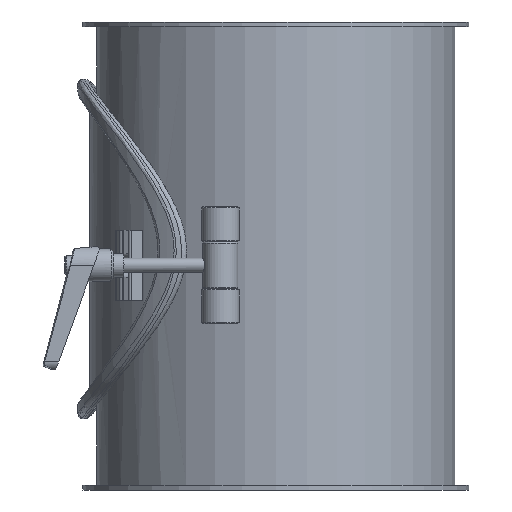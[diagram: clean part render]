
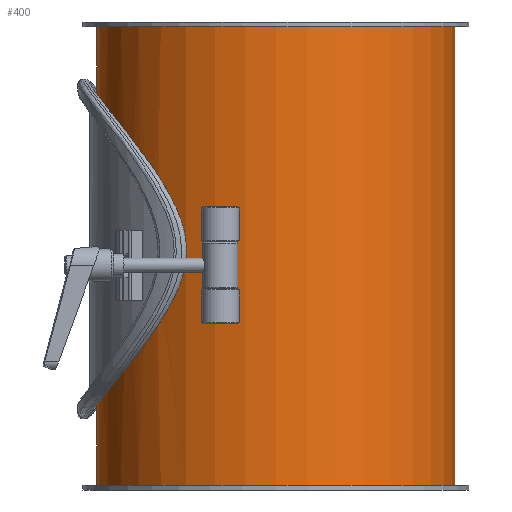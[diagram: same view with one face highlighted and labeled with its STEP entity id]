
A CAD part, front view. The second image highlights one B-rep face of the part: STEP entity #400.
In plain terms, the highlighted cylindrical face has radius 76.5 mm (diameter 153 mm), a full revolution.
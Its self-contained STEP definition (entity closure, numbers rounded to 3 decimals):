
#185=CARTESIAN_POINT('',(-50.458,-57.5,100.0));
#186=VERTEX_POINT('',#185);
#187=CARTESIAN_POINT('',(-50.458,-57.5,100.0));
#188=CARTESIAN_POINT('',(-50.458,-57.5,96.137));
#189=CARTESIAN_POINT('',(-50.915,-57.107,92.261));
#190=CARTESIAN_POINT('',(-52.594,-55.564,84.713));
#191=CARTESIAN_POINT('',(-53.809,-54.416,81.039));
#192=CARTESIAN_POINT('',(-56.643,-51.459,74.065));
#193=CARTESIAN_POINT('',(-58.262,-49.647,70.759));
#194=CARTESIAN_POINT('',(-61.558,-45.496,64.645));
#195=CARTESIAN_POINT('',(-63.234,-43.155,61.838));
#196=CARTESIAN_POINT('',(-66.334,-38.215,56.898));
#197=CARTESIAN_POINT('',(-67.88,-35.439,54.568));
#198=CARTESIAN_POINT('',(-70.736,-29.327,50.403));
#199=CARTESIAN_POINT('',(-72.044,-25.991,48.567));
#200=CARTESIAN_POINT('',(-74.209,-18.943,45.575));
#201=CARTESIAN_POINT('',(-75.068,-15.222,44.417));
#202=CARTESIAN_POINT('',(-76.214,-7.641,42.879));
#203=CARTESIAN_POINT('',(-76.5,-3.781,42.5));
#204=CARTESIAN_POINT('',(-76.5,3.781,42.5));
#205=CARTESIAN_POINT('',(-76.214,7.641,42.879));
#206=CARTESIAN_POINT('',(-75.068,15.222,44.417));
#207=CARTESIAN_POINT('',(-74.209,18.943,45.575));
#208=CARTESIAN_POINT('',(-72.044,25.991,48.567));
#209=CARTESIAN_POINT('',(-70.736,29.327,50.403));
#210=CARTESIAN_POINT('',(-67.88,35.439,54.568));
#211=CARTESIAN_POINT('',(-66.334,38.215,56.898));
#212=CARTESIAN_POINT('',(-63.234,43.155,61.838));
#213=CARTESIAN_POINT('',(-61.558,45.496,64.645));
#214=CARTESIAN_POINT('',(-58.262,49.647,70.759));
#215=CARTESIAN_POINT('',(-56.643,51.459,74.065));
#216=CARTESIAN_POINT('',(-53.809,54.416,81.039));
#217=CARTESIAN_POINT('',(-52.594,55.564,84.713));
#218=CARTESIAN_POINT('',(-50.915,57.107,92.261));
#219=CARTESIAN_POINT('',(-50.458,57.5,96.137));
#220=CARTESIAN_POINT('',(-50.458,57.5,103.863));
#221=CARTESIAN_POINT('',(-50.915,57.107,107.739));
#222=CARTESIAN_POINT('',(-52.594,55.564,115.287));
#223=CARTESIAN_POINT('',(-53.809,54.416,118.961));
#224=CARTESIAN_POINT('',(-56.643,51.459,125.935));
#225=CARTESIAN_POINT('',(-58.262,49.647,129.241));
#226=CARTESIAN_POINT('',(-61.558,45.496,135.355));
#227=CARTESIAN_POINT('',(-63.234,43.155,138.162));
#228=CARTESIAN_POINT('',(-66.334,38.215,143.102));
#229=CARTESIAN_POINT('',(-67.88,35.439,145.432));
#230=CARTESIAN_POINT('',(-70.736,29.327,149.597));
#231=CARTESIAN_POINT('',(-72.044,25.991,151.433));
#232=CARTESIAN_POINT('',(-74.209,18.943,154.425));
#233=CARTESIAN_POINT('',(-75.068,15.222,155.583));
#234=CARTESIAN_POINT('',(-76.214,7.641,157.121));
#235=CARTESIAN_POINT('',(-76.5,3.781,157.5));
#236=CARTESIAN_POINT('',(-76.5,-3.781,157.5));
#237=CARTESIAN_POINT('',(-76.214,-7.641,157.121));
#238=CARTESIAN_POINT('',(-75.068,-15.222,155.583));
#239=CARTESIAN_POINT('',(-74.209,-18.943,154.425));
#240=CARTESIAN_POINT('',(-72.044,-25.991,151.433));
#241=CARTESIAN_POINT('',(-70.736,-29.327,149.597));
#242=CARTESIAN_POINT('',(-67.88,-35.439,145.432));
#243=CARTESIAN_POINT('',(-66.334,-38.215,143.102));
#244=CARTESIAN_POINT('',(-63.234,-43.155,138.162));
#245=CARTESIAN_POINT('',(-61.558,-45.496,135.355));
#246=CARTESIAN_POINT('',(-58.262,-49.647,129.241));
#247=CARTESIAN_POINT('',(-56.643,-51.459,125.935));
#248=CARTESIAN_POINT('',(-53.809,-54.416,118.961));
#249=CARTESIAN_POINT('',(-52.594,-55.564,115.287));
#250=CARTESIAN_POINT('',(-50.915,-57.107,107.739));
#251=CARTESIAN_POINT('',(-50.458,-57.5,103.863));
#252=CARTESIAN_POINT('',(-50.458,-57.5,100.0));
#253=B_SPLINE_CURVE_WITH_KNOTS('',3,(#187,#188,#189,#190,#191,#192,#193,#194,#195,#196,#197,#198,#199,#200,#201,#202,#203,#204,#205,#206,#207,#208,#209,#210,#211,#212,#213,#214,#215,#216,#217,#218,#219,#220,#221,#222,#223,#224,#225,#226,#227,#228,#229,#230,#231,#232,#233,#234,#235,#236,#237,#238,#239,#240,#241,#242,#243,#244,#245,#246,#247,#248,#249,#250,#251,#252),.UNSPECIFIED.,.T.,.U.,(4,2,2,2,2,2,2,2,2,2,2,2,2,2,2,2,2,2,2,2,2,2,2,2,2,2,2,2,2,2,2,2,4),(0.0,1.159,2.318,3.477,4.636,5.77,6.904,8.038,9.173,10.307,11.441,12.575,13.709,14.868,16.027,17.186,18.345,19.504,20.663,21.822,22.981,24.115,25.249,26.383,27.518,28.652,29.786,30.92,32.054,33.213,34.372,35.531,36.69),.UNSPECIFIED.);
#254=EDGE_CURVE('',#186,#186,#253,.T.);
#295=CARTESIAN_POINT('',(76.5,0.,198.0));
#296=VERTEX_POINT('',#295);
#297=CARTESIAN_POINT('',(0.0,0.0,198.0));
#298=DIRECTION('',(0.0,0.0,-1.0));
#299=DIRECTION('',(-1.0,0.0,0.0));
#300=AXIS2_PLACEMENT_3D('',#297,#298,#299);
#301=CIRCLE('',#300,76.5);
#302=EDGE_CURVE('',#296,#296,#301,.T.);
#343=CARTESIAN_POINT('',(-76.5,0.,2.0));
#344=VERTEX_POINT('',#343);
#345=CARTESIAN_POINT('',(0.0,0.0,2.0));
#346=DIRECTION('',(0.0,0.0,1.0));
#347=DIRECTION('',(-1.0,0.0,0.0));
#348=AXIS2_PLACEMENT_3D('',#345,#346,#347);
#349=CIRCLE('',#348,76.5);
#350=EDGE_CURVE('',#344,#344,#349,.T.);
#386=CARTESIAN_POINT('',(0.0,0.0,0.0));
#387=DIRECTION('',(0.0,0.0,1.0));
#388=DIRECTION('',(-1.0,0.0,0.0));
#389=AXIS2_PLACEMENT_3D('',#386,#387,#388);
#390=CYLINDRICAL_SURFACE('',#389,76.5);
#391=ORIENTED_EDGE('',*,*,#302,.T.);
#392=EDGE_LOOP('',(#391));
#393=FACE_OUTER_BOUND('',#392,.T.);
#394=ORIENTED_EDGE('',*,*,#254,.T.);
#395=EDGE_LOOP('',(#394));
#396=FACE_BOUND('',#395,.T.);
#397=ORIENTED_EDGE('',*,*,#350,.T.);
#398=EDGE_LOOP('',(#397));
#399=FACE_BOUND('',#398,.T.);
#400=ADVANCED_FACE('',(#393,#396,#399),#390,.T.);
